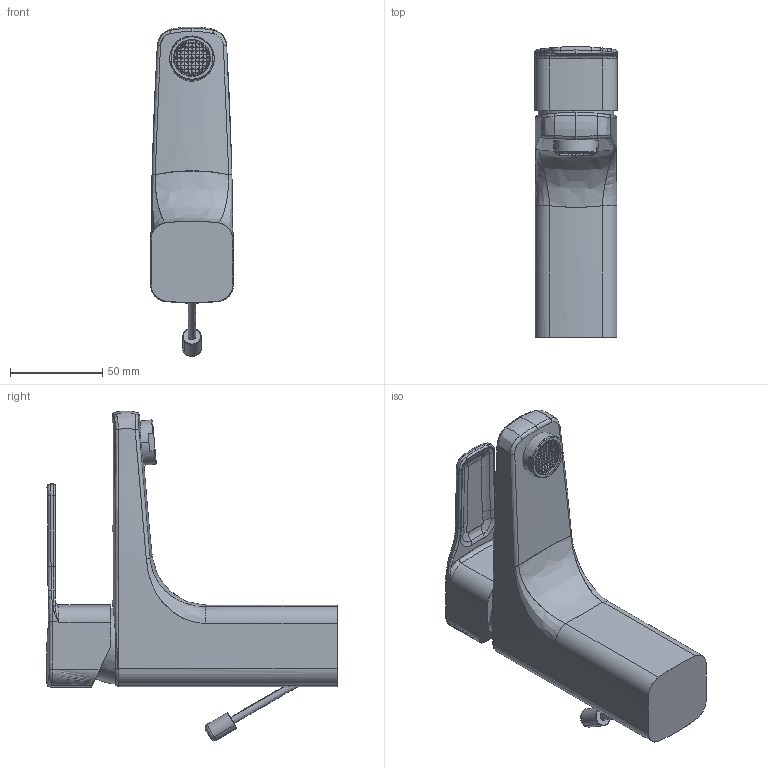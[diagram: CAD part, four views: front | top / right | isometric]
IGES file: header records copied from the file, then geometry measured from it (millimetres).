
Start section: SolidWorks IGES file using NURBS representation for surfaces
Global section: file name: \\IBMGRAU\Projectos\01-TORNEIRAS\ADVANCE\5270300 - mist. lavat. c VDA\biblioteca 3D\5270300_igs.IGS; native system: SolidWorks 2018; preprocessor: SolidWorks 2018; author: Julio; date: 180411.160721; units: millimetre
Bounding box: 44.74 x 157 x 178.32 mm (x, y, z)
Surface area: 47548.4 mm2 (no closed solid volume)
Topology: 0 solids, 0 shells, 647 faces, 10111 edges, 10103 vertices
Faces by surface type: bspline 647
